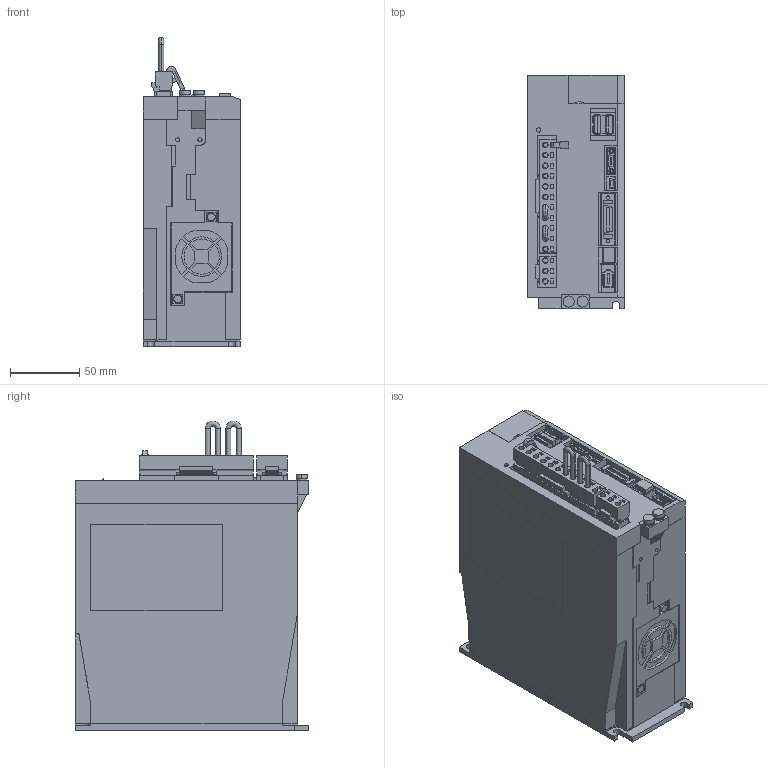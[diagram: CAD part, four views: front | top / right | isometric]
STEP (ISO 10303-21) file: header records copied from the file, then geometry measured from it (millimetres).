
FILE_DESCRIPTION (( 'STEP AP203' ), '1' );
FILE_NAME ('sgd7s_3r8a10a.STEP', '2016-08-02T00:33:12', ( '匠エンジニアリング山之内' ), ( 'TAKUMI-Engniaring' ), 'SwSTEP 2.0', 'SolidWorks 2006303', '' );
FILE_SCHEMA (( 'CONFIG_CONTROL_DESIGN' ));
Products named in the file (10): sgd7s_3r8a10a_cover; sgd7s_3r8a10a_cover2; sgd7s_3r8a10a; sgd7s_3r8a10a_base; sgd7s_3r8a10a_connector; sgd7s_3r8a10a_connector_2; sgd7s_3r8a10a_pin; sgd7s_3r8a10a_cable; sgd7s_3r8a10a_connector_1; sgd7s_3r8a10a_connector_3
Assembly tree (11 placements, depth 3):
  sgd7s_3r8a10a
    sgd7s_3r8a10a_cover2  x2
    sgd7s_3r8a10a_connector
      sgd7s_3r8a10a_cable  x2
      sgd7s_3r8a10a_pin
      sgd7s_3r8a10a_connector_2
    sgd7s_3r8a10a_connector_1
    sgd7s_3r8a10a_cover
    sgd7s_3r8a10a_connector_3
    sgd7s_3r8a10a_base
Bounding box: 70.5 x 168 x 223 mm (x, y, z)
Volume: 1989183.1 mm3; surface area: 150912.4 mm2
Topology: 10 solids, 10 shells, 1779 faces, 4626 edges, 3048 vertices
Faces by surface type: plane 1561, cylinder 209, torus 4, cone 4, sphere 1
Entity records: 53723 total; most frequent: CARTESIAN_POINT 9301, ORIENTED_EDGE 9092, DIRECTION 8481, EDGE_CURVE 4546, VECTOR 4129, LINE 4129, VERTEX_POINT 2996, AXIS2_PLACEMENT_3D 2176
